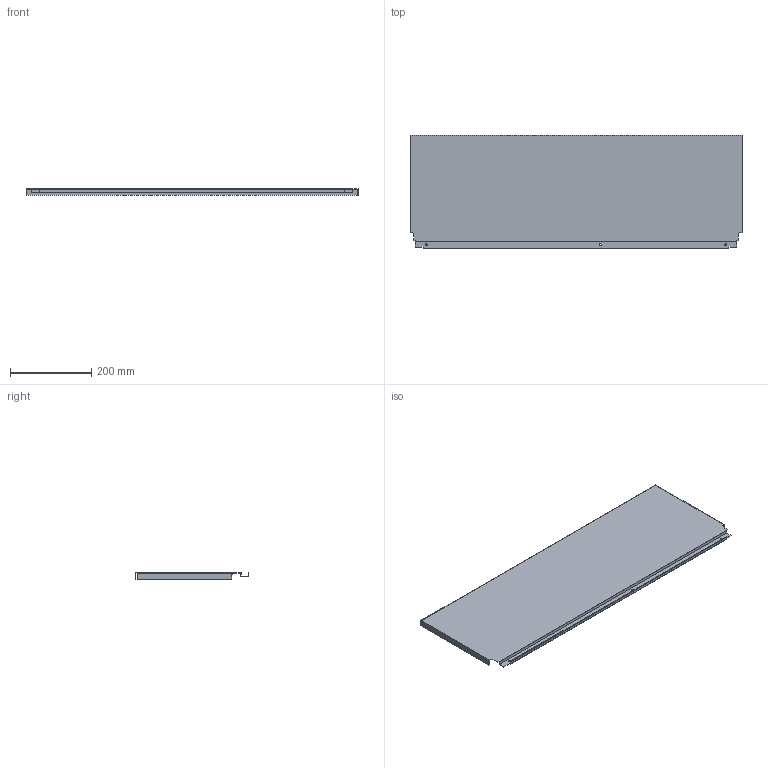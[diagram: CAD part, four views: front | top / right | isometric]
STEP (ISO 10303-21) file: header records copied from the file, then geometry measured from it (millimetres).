
FILE_DESCRIPTION (( 'STEP AP214' ), '1' );
FILE_NAME ('_DWD_XP Stahlrückwand_H278_KAB900_S16.step', '2010-07-08T13:03:50', ( 'grass' ), ( '' ), 'SwSTEP 2.0', 'SolidWorks 2010', '' );
FILE_SCHEMA (( 'AUTOMOTIVE_DESIGN' ));
Length unit declared in the file: millimetre
Products named in the file (1): _DWD_XP Stahlrückwand_H278_KAB900_S16
Bounding box: 817 x 278.57 x 16 mm (x, y, z)
Volume: 226793 mm3; surface area: 517429.3 mm2
Topology: 1 solids, 1 shells, 46 faces, 132 edges, 88 vertices
Faces by surface type: plane 40, cylinder 6
Entity records: 1534 total; most frequent: CARTESIAN_POINT 267, ORIENTED_EDGE 264, DIRECTION 238, EDGE_CURVE 132, LINE 120, VECTOR 120, VERTEX_POINT 88, AXIS2_PLACEMENT_3D 59
